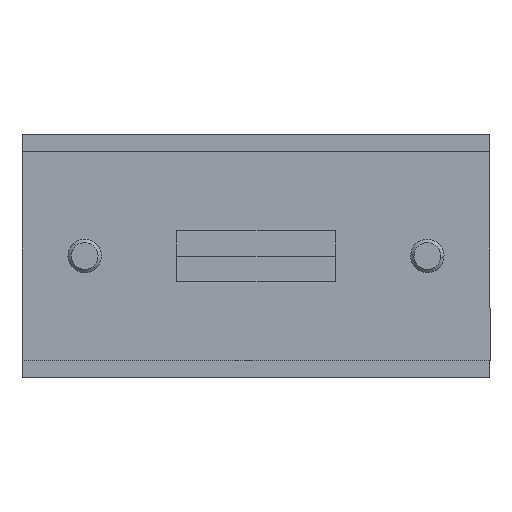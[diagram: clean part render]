
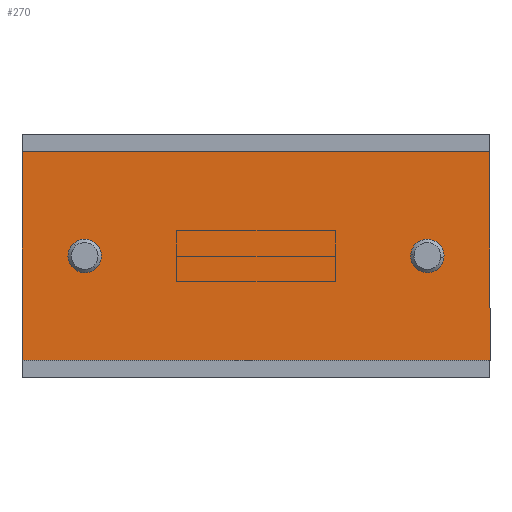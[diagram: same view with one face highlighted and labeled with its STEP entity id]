
A CAD part, front view. The second image highlights one B-rep face of the part: STEP entity #270.
In plain terms, the highlighted planar face has unit normal (0, -1, 0) as drawn and (0, 0, -1) by its records, which use the part's own axes.
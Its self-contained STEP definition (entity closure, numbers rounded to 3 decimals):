
#270 = ADVANCED_FACE ( 'NONE', ( #2687, #2698, #2965 ), #4281, .T. ) ;
#631 = EDGE_CURVE ( 'NONE', #2759, #3076, #5602, .T. ) ;
#860 = EDGE_CURVE ( 'NONE', #3077, #2318, #1343, .T. ) ;
#981 = EDGE_CURVE ( 'NONE', #3076, #2759, #1853, .T. ) ;
#986 = EDGE_CURVE ( 'NONE', #2318, #3077, #1867, .T. ) ;
#988 = EDGE_CURVE ( 'NONE', #2191, #2406, #1866, .T. ) ;
#989 = EDGE_CURVE ( 'NONE', #2941, #2222, #1858, .T. ) ;
#990 = EDGE_CURVE ( 'NONE', #2222, #2191, #1879, .T. ) ;
#991 = EDGE_CURVE ( 'NONE', #2406, #2941, #1878, .T. ) ;
#1148 = AXIS2_PLACEMENT_3D ( 'NONE', #3549, #3548, #3547 ) ;
#1158 = AXIS2_PLACEMENT_3D ( 'NONE', #3535, #3534, #3533 ) ;
#1202 = AXIS2_PLACEMENT_3D ( 'NONE', #4300, #4304, #4275 ) ;
#1218 = AXIS2_PLACEMENT_3D ( 'NONE', #3913, #3912, #3911 ) ;
#1222 = AXIS2_PLACEMENT_3D ( 'NONE', #3688, #3687, #3686 ) ;
#1343 = CIRCLE ( 'NONE', #1222, 3.4 ) ;
#1853 = CIRCLE ( 'NONE', #1148, 3.4 ) ;
#1858 = LINE ( 'NONE', #3532, #1880 ) ;
#1866 = LINE ( 'NONE', #3537, #1873 ) ;
#1867 = CIRCLE ( 'NONE', #1158, 3.4 ) ;
#1873 = VECTOR ( 'NONE', #3536, 1000. ) ;
#1877 = VECTOR ( 'NONE', #3522, 1000. ) ;
#1878 = LINE ( 'NONE', #3523, #1877 ) ;
#1879 = LINE ( 'NONE', #3525, #1884 ) ;
#1880 = VECTOR ( 'NONE', #3527, 1000. ) ;
#1884 = VECTOR ( 'NONE', #3524, 1000. ) ;
#2191 = VERTEX_POINT ( 'NONE', #5394 ) ;
#2222 = VERTEX_POINT ( 'NONE', #5392 ) ;
#2318 = VERTEX_POINT ( 'NONE', #5334 ) ;
#2406 = VERTEX_POINT ( 'NONE', #5278 ) ;
#2502 = ORIENTED_EDGE ( 'NONE', *, *, #991, .T. ) ;
#2604 = ORIENTED_EDGE ( 'NONE', *, *, #988, .T. ) ;
#2618 = ORIENTED_EDGE ( 'NONE', *, *, #989, .T. ) ;
#2651 = ORIENTED_EDGE ( 'NONE', *, *, #986, .T. ) ;
#2687 = FACE_BOUND ( 'NONE', #3134, .T. ) ;
#2698 = FACE_OUTER_BOUND ( 'NONE', #3221, .T. ) ;
#2759 = VERTEX_POINT ( 'NONE', #5194 ) ;
#2815 = ORIENTED_EDGE ( 'NONE', *, *, #860, .T. ) ;
#2842 = ORIENTED_EDGE ( 'NONE', *, *, #981, .T. ) ;
#2893 = ORIENTED_EDGE ( 'NONE', *, *, #631, .T. ) ;
#2937 = ORIENTED_EDGE ( 'NONE', *, *, #990, .T. ) ;
#2941 = VERTEX_POINT ( 'NONE', #5145 ) ;
#2965 = FACE_BOUND ( 'NONE', #3154, .T. ) ;
#3076 = VERTEX_POINT ( 'NONE', #5560 ) ;
#3077 = VERTEX_POINT ( 'NONE', #5513 ) ;
#3134 = EDGE_LOOP ( 'NONE', ( #2842, #2893 ) ) ;
#3154 = EDGE_LOOP ( 'NONE', ( #2651, #2815 ) ) ;
#3221 = EDGE_LOOP ( 'NONE', ( #2937, #2604, #2502, #2618 ) ) ;
#3522 = DIRECTION ( 'NONE',  ( -1., 0., 0. ) ) ;
#3523 = CARTESIAN_POINT ( 'NONE',  ( 56., -25., -6. ) ) ;
#3524 = DIRECTION ( 'NONE',  ( 1., 0., 0. ) ) ;
#3525 = CARTESIAN_POINT ( 'NONE',  ( -56., 25., -6. ) ) ;
#3527 = DIRECTION ( 'NONE',  ( 0., 1., 0. ) ) ;
#3532 = CARTESIAN_POINT ( 'NONE',  ( -56., -25., -6. ) ) ;
#3533 = DIRECTION ( 'NONE',  ( 0., -1., 0. ) ) ;
#3534 = DIRECTION ( 'NONE',  ( 0., 0., 1. ) ) ;
#3535 = CARTESIAN_POINT ( 'NONE',  ( 41., -0.008, -6. ) ) ;
#3536 = DIRECTION ( 'NONE',  ( 0., -1., 0. ) ) ;
#3537 = CARTESIAN_POINT ( 'NONE',  ( 56., 25., -6. ) ) ;
#3547 = DIRECTION ( 'NONE',  ( 0., -1., 0. ) ) ;
#3548 = DIRECTION ( 'NONE',  ( 0., 0., 1. ) ) ;
#3549 = CARTESIAN_POINT ( 'NONE',  ( -41., -0.008, -6. ) ) ;
#3686 = DIRECTION ( 'NONE',  ( 0., -1., 0. ) ) ;
#3687 = DIRECTION ( 'NONE',  ( 0., 0., 1. ) ) ;
#3688 = CARTESIAN_POINT ( 'NONE',  ( 41., -0.008, -6. ) ) ;
#3911 = DIRECTION ( 'NONE',  ( 0., -1., 0. ) ) ;
#3912 = DIRECTION ( 'NONE',  ( 0., 0., 1. ) ) ;
#3913 = CARTESIAN_POINT ( 'NONE',  ( -41., -0.008, -6. ) ) ;
#4275 = DIRECTION ( 'NONE',  ( -1., 0., 0. ) ) ;
#4281 = PLANE ( 'NONE',  #1202 ) ;
#4300 = CARTESIAN_POINT ( 'NONE',  ( 0., 0., -6. ) ) ;
#4304 = DIRECTION ( 'NONE',  ( 0., 0., -1. ) ) ;
#5145 = CARTESIAN_POINT ( 'NONE',  ( -56., -25., -6. ) ) ;
#5194 = CARTESIAN_POINT ( 'NONE',  ( -41., 3.392, -6. ) ) ;
#5278 = CARTESIAN_POINT ( 'NONE',  ( 56., -25., -6. ) ) ;
#5334 = CARTESIAN_POINT ( 'NONE',  ( 41., -3.408, -6. ) ) ;
#5392 = CARTESIAN_POINT ( 'NONE',  ( -56., 25., -6. ) ) ;
#5394 = CARTESIAN_POINT ( 'NONE',  ( 56., 25., -6. ) ) ;
#5513 = CARTESIAN_POINT ( 'NONE',  ( 41., 3.392, -6. ) ) ;
#5560 = CARTESIAN_POINT ( 'NONE',  ( -41., -3.408, -6. ) ) ;
#5602 = CIRCLE ( 'NONE', #1218, 3.4 ) ;
